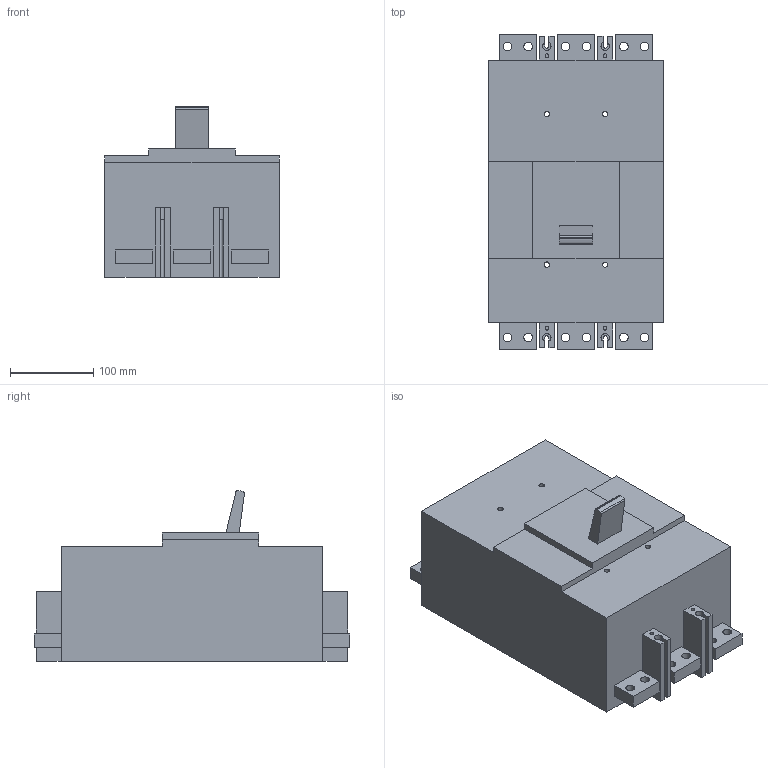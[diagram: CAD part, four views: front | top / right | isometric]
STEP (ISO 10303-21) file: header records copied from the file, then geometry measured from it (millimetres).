
FILE_DESCRIPTION (( 'STEP AP214' ), '1' );
FILE_NAME ('OptiMat D1600.STEP', '2023-04-26T11:19:59', ( '' ), ( '' ), 'SwSTEP 2.0', 'SolidWorks 2018', '' );
FILE_SCHEMA (( 'AUTOMOTIVE_DESIGN' ));
Length unit declared in the file: millimetre
Products named in the file (1): OptiMat D1600
Bounding box: 210 x 379.8 x 205.51 mm (x, y, z)
Volume: 9737153.7 mm3; surface area: 364780.3 mm2
Topology: 1 solids, 1 shells, 144 faces, 395 edges, 264 vertices
Faces by surface type: plane 84, cylinder 60
Entity records: 4689 total; most frequent: CARTESIAN_POINT 816, DIRECTION 797, ORIENTED_EDGE 790, EDGE_CURVE 395, LINE 275, VECTOR 275, VERTEX_POINT 264, AXIS2_PLACEMENT_3D 261
